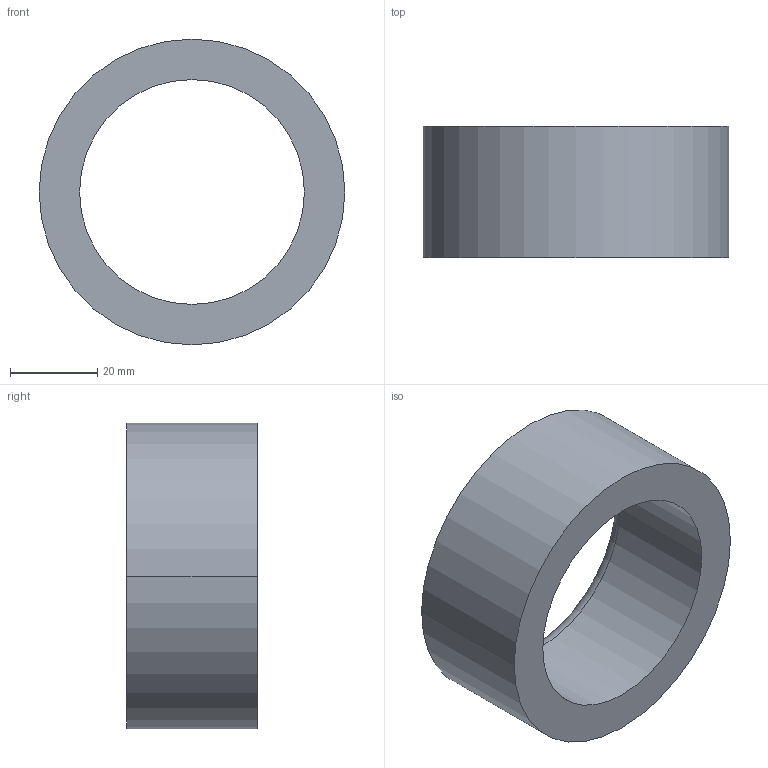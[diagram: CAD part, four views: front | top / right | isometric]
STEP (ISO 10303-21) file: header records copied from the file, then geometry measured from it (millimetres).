
FILE_DESCRIPTION (( 'STEP AP203' ), '1' );
FILE_NAME ('30800.WPP70L51.5.step', '2019-01-23T23:00:11', ( '' ), ( '' ), 'SwSTEP 2.0', 'SolidWorks 2017', '' );
FILE_SCHEMA (( 'CONFIG_CONTROL_DESIGN' ));
Length unit declared in the file: millimetre
Products named in the file (1): 30800.WPP70L51.5
Bounding box: 70 x 30 x 70 mm (x, y, z)
Volume: 52523.1 mm3; surface area: 14744.3 mm2
Topology: 1 solids, 1 shells, 8 faces, 16 edges, 10 vertices
Faces by surface type: cylinder 4, torus 2, plane 2
Entity records: 297 total; most frequent: DIRECTION 46, CARTESIAN_POINT 35, ORIENTED_EDGE 32, AXIS2_PLACEMENT_3D 21, EDGE_CURVE 16, CIRCLE 12, EDGE_LOOP 10, VERTEX_POINT 10
